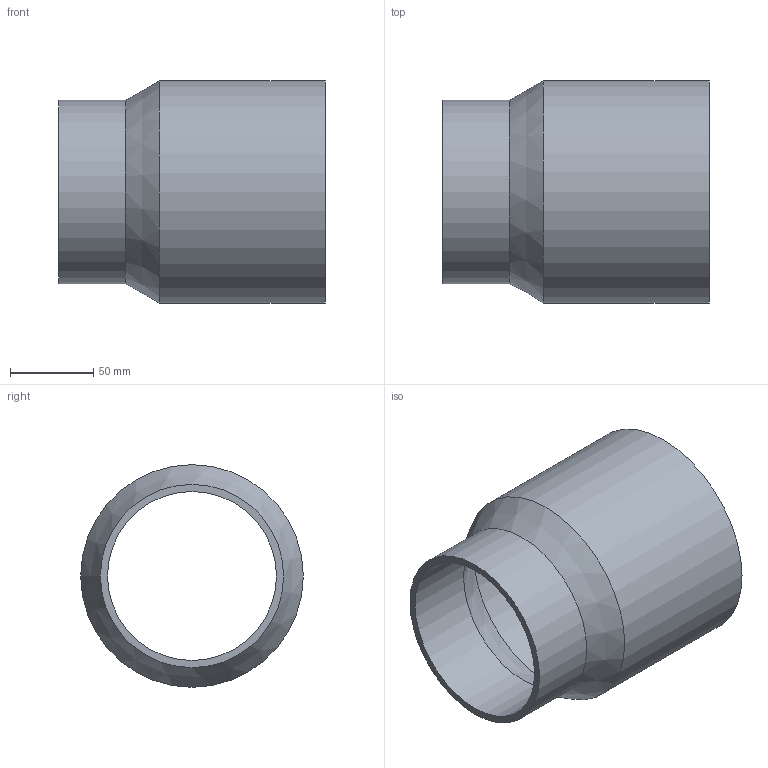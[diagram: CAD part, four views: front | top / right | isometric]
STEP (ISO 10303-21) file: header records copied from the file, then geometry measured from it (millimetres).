
FILE_DESCRIPTION(/* description */ (''),/* implementation_level */ '2;1');
FILE_NAME(/* name */ 'Z:\Geberit\Export\NewStep\367551.stp',/* time_stamp */ '2014-04-02T07:57:24+02:00',/* author */ ('nelson'),/* organization */ (''),/* preprocessor_version */ 'ST-DEVELOPER v15.2',/* originating_system */ 'Autodesk Inventor 2014',/* authorisation */ '');
FILE_SCHEMA (('AUTOMOTIVE_DESIGN { 1 0 10303 214 3 1 1 }'));
Length unit declared in the file: millimetre
Products named in the file (1): 367551
Bounding box: 160 x 133.6 x 133.6 mm (x, y, z)
Volume: 268295.8 mm3; surface area: 127963.3 mm2
Topology: 1 solids, 1 shells, 8 faces, 14 edges, 8 vertices
Faces by surface type: cylinder 4, cone 2, plane 2
Full cylindrical faces by diameter (mm): 101.4 x1, 110 x1, 125 x1, 133.6 x1
Entity records: 189 total; most frequent: DIRECTION 34, CARTESIAN_POINT 25, AXIS2_PLACEMENT_3D 17, EDGE_LOOP 16, ORIENTED_EDGE 16, FACE_BOUND 9, CIRCLE 8, VERTEX_POINT 8
